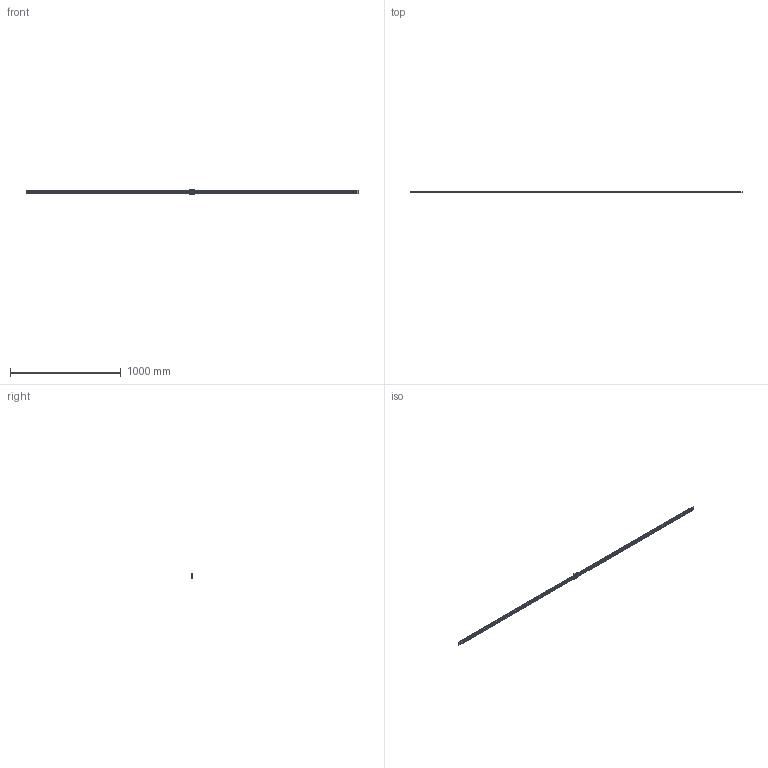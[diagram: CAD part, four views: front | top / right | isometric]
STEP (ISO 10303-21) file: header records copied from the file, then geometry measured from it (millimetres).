
FILE_DESCRIPTION(/* description */ ('STEP AP214'),/* implementation_level */ '2;1');
FILE_NAME(/* name */ 'HRW17CR1UU-3000LT_G20_0_PB107_1474-6_0_0_0_1',/* time_stamp */ '2023-09-26T15:12:19+02:00',/* author */ ('License CC BY-ND 4.0'),/* organization */ ('CADENAS'),/* preprocessor_version */ 'ST-DEVELOPER v19.3',/* originating_system */ 'PARTsolutions',/* authorisation */ ' ');
FILE_SCHEMA (('AUTOMOTIVE_DESIGN {1 0 10303 214 3 1 1}'));
Length unit declared in the file: millimetre
Products named in the file (4): HRW17CR1UU-3000LT_G20_0_PB107_1474-6_0_0_0_1; HRW-PB107_grease_nipple_joint; HRW17CRUUPB1071 Slide17-60; HRW17CR300020 Track
Assembly tree (3 placements, depth 2):
  HRW17CR1UU-3000LT_G20_0_PB107_1474-6_0_0_0_1
    HRW-PB107_grease_nipple_joint
    HRW17CRUUPB1071 Slide17-60
    HRW17CR300020 Track
Bounding box: 3000 x 17 x 50 mm (x, y, z)
Volume: 801202.3 mm3; surface area: 291460.5 mm2
Topology: 3 solids, 3 shells, 713 faces, 1586 edges, 1052 vertices
Faces by surface type: plane 365, cylinder 327, cone 16, torus 4, sphere 1
Full cylindrical faces by diameter (mm): 3 x3, 3.242 x4, 3.5 x1, 4.5 x159, 7.5 x150
Entity records: 18919 total; most frequent: DIRECTION 3350, CARTESIAN_POINT 3009, ORIENTED_EDGE 2484, FACE_BOUND 1528, EDGE_LOOP 1524, AXIS2_PLACEMENT_3D 1391, EDGE_CURVE 1242, VERTEX_POINT 1050
